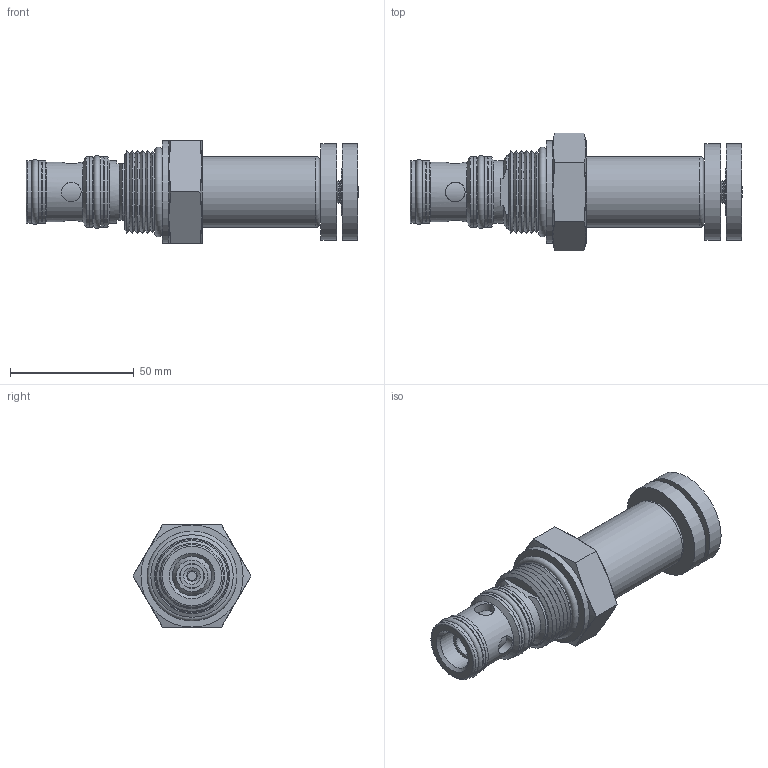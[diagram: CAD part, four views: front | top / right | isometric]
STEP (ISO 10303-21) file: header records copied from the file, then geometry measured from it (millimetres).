
FILE_DESCRIPTION( ( 'Unknown' ), '1' );
FILE_NAME( 'G:/Graphic Design/Graphic Design 2/Data Sheets/PRESSURE CONTROLS/2_STEP/Sequence Valves/D-SLPWA0K-D3.stp', 'Unknown', ( 'Unknown' ), ( 'Unknown' ), 'PSStep 16.0.42', 'Unknown', ' ' );
FILE_SCHEMA( ( 'AUTOMOTIVE_DESIGN { 1 0 10303 214 1 1 1 1 }' ) );
Length unit declared in the file: millimetre
Products named in the file (12): SLPWA0K; Part250_0; Part252_0; Part254_0; Part256_0; Part258_0; Part262_0; Part264_0; Part266_0; Part260_0; Assem1
Assembly tree (11 placements, depth 3):
  Assem1
    SLPWA0K
      Part250_0
      Part252_0
      Part254_0
      Part256_0
      Part258_0
      Part262_0
      Part264_0
      Part266_0
      Part260_0
      Part260_0
Bounding box: 134.11 x 47.66 x 41.27 mm (x, y, z)
Surface area: 27615.7 mm2 (no closed solid volume)
Topology: 0 solids, 172 shells, 172 faces, 617 edges, 532 vertices
Faces by surface type: cone 75, plane 52, cylinder 39, torus 6
Full cylindrical faces by diameter (mm): 3.962 x1, 7.925 x4, 8.128 x1, 9.525 x4, 10.109 x1, 15.875 x1, 19.05 x2, 20.93 x1, 20.98 x1, 24.105 x1, 24.13 x1, 24.155 x2, 25.197 x1, 25.349 x2, 25.4 x1, 28.372 x2, 28.524 x2, 28.702 x1, 30.328 x1, 38.862 x2, 41.275 x1
Entity records: 8978 total; most frequent: CARTESIAN_POINT 2965, DIRECTION 1016, VERTEX_POINT 495, ORIENTED_EDGE 491, EDGE_CURVE 491, AXIS2_PLACEMENT_3D 471, CIRCLE 286, FACE_BOUND 283
